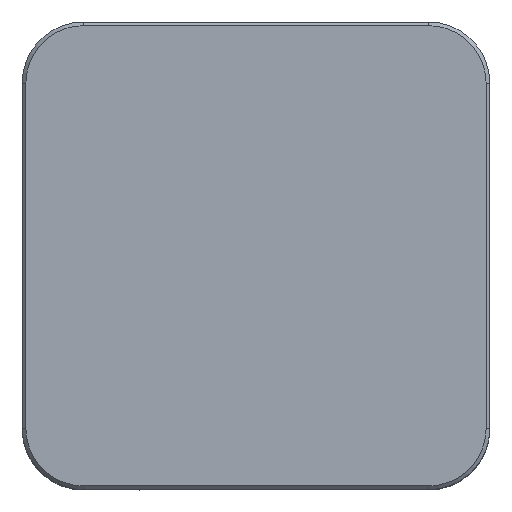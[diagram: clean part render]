
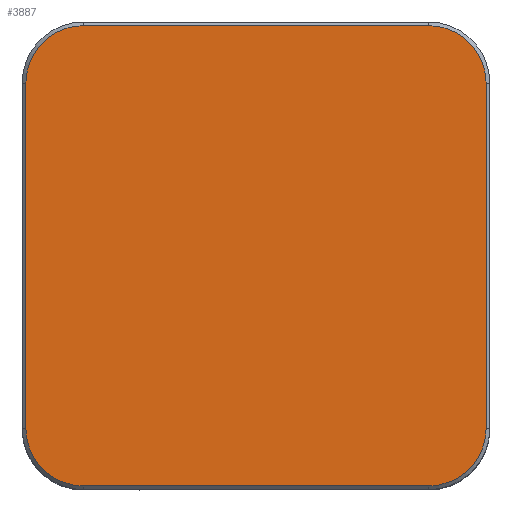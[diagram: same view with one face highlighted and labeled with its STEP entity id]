
A CAD part, top view. The second image highlights one B-rep face of the part: STEP entity #3887.
In plain terms, the highlighted planar face has unit normal (0, 0, 1) as drawn and (0, 1, 0) by its records, which use the part's own axes.
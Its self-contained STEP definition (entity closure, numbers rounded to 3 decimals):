
#28 = VERTEX_POINT ( 'NONE', #13132 ) ;
#426 = CARTESIAN_POINT ( 'NONE',  ( -33.2, 11.8, 5. ) ) ;
#432 = CIRCLE ( 'NONE', #9113, 4.7 ) ;
#637 = CARTESIAN_POINT ( 'NONE',  ( -33.2, 11.8, 33.2 ) ) ;
#1068 = VECTOR ( 'NONE', #6383, 1000. ) ;
#1191 = CARTESIAN_POINT ( 'NONE',  ( -0.3, 11.8, 33.2 ) ) ;
#1247 = ORIENTED_EDGE ( 'NONE', *, *, #3437, .T. ) ;
#1330 = CARTESIAN_POINT ( 'NONE',  ( -33.2, 11.8, 37.9 ) ) ;
#1341 = EDGE_CURVE ( 'NONE', #10643, #1408, #15389, .T. ) ;
#1408 = VERTEX_POINT ( 'NONE', #13802 ) ;
#1600 = CARTESIAN_POINT ( 'NONE',  ( -5., 11.8, 33.2 ) ) ;
#1985 = DIRECTION ( 'NONE',  ( 1., 0., 0. ) ) ;
#2453 = DIRECTION ( 'NONE',  ( 0., 1., 0. ) ) ;
#2904 = CARTESIAN_POINT ( 'NONE',  ( -5., 11.8, 37.9 ) ) ;
#3333 = CIRCLE ( 'NONE', #8011, 4.7 ) ;
#3437 = EDGE_CURVE ( 'NONE', #6934, #8781, #432, .T. ) ;
#3855 = LINE ( 'NONE', #1330, #1068 ) ;
#3887 = ADVANCED_FACE ( 'NONE', ( #5168 ), #12630, .T. ) ;
#3985 = DIRECTION ( 'NONE',  ( 0., 0., 1. ) ) ;
#4085 = DIRECTION ( 'NONE',  ( 0., 0., -1. ) ) ;
#4255 = EDGE_CURVE ( 'NONE', #8781, #11705, #13461, .T. ) ;
#4299 = DIRECTION ( 'NONE',  ( 0., 1., 0. ) ) ;
#4515 = EDGE_CURVE ( 'NONE', #1408, #6350, #12273, .T. ) ;
#5168 = FACE_OUTER_BOUND ( 'NONE', #9857, .T. ) ;
#5200 = EDGE_CURVE ( 'NONE', #11705, #10643, #15435, .T. ) ;
#5378 = ORIENTED_EDGE ( 'NONE', *, *, #4255, .T. ) ;
#5844 = DIRECTION ( 'NONE',  ( 0., 1., 0. ) ) ;
#5846 = ORIENTED_EDGE ( 'NONE', *, *, #16192, .T. ) ;
#6350 = VERTEX_POINT ( 'NONE', #12831 ) ;
#6383 = DIRECTION ( 'NONE',  ( 1., 0., 0. ) ) ;
#6745 = ORIENTED_EDGE ( 'NONE', *, *, #5200, .T. ) ;
#6934 = VERTEX_POINT ( 'NONE', #2904 ) ;
#7261 = AXIS2_PLACEMENT_3D ( 'NONE', #8384, #5844, #1985 ) ;
#7286 = DIRECTION ( 'NONE',  ( 0., 0., -1. ) ) ;
#7961 = DIRECTION ( 'NONE',  ( 0., 0., 1. ) ) ;
#8011 = AXIS2_PLACEMENT_3D ( 'NONE', #637, #4299, #12033 ) ;
#8384 = CARTESIAN_POINT ( 'NONE',  ( -5., 11.8, 5. ) ) ;
#8730 = CARTESIAN_POINT ( 'NONE',  ( -0.3, 11.8, 33.2 ) ) ;
#8781 = VERTEX_POINT ( 'NONE', #1191 ) ;
#8852 = VERTEX_POINT ( 'NONE', #9095 ) ;
#9095 = CARTESIAN_POINT ( 'NONE',  ( -33.2, 11.8, 37.9 ) ) ;
#9113 = AXIS2_PLACEMENT_3D ( 'NONE', #1600, #9234, #7961 ) ;
#9234 = DIRECTION ( 'NONE',  ( 0., 1., 0. ) ) ;
#9268 = DIRECTION ( 'NONE',  ( 0., 1., 0. ) ) ;
#9325 = EDGE_CURVE ( 'NONE', #6350, #28, #15297, .T. ) ;
#9857 = EDGE_LOOP ( 'NONE', ( #5846, #1247, #5378, #6745, #9875, #14573, #10976, #15585 ) ) ;
#9875 = ORIENTED_EDGE ( 'NONE', *, *, #1341, .T. ) ;
#10643 = VERTEX_POINT ( 'NONE', #14379 ) ;
#10976 = ORIENTED_EDGE ( 'NONE', *, *, #9325, .T. ) ;
#11140 = EDGE_CURVE ( 'NONE', #28, #8852, #3333, .T. ) ;
#11288 = VECTOR ( 'NONE', #7286, 1000. ) ;
#11297 = DIRECTION ( 'NONE',  ( 1., 0., 0. ) ) ;
#11389 = VECTOR ( 'NONE', #15980, 1000. ) ;
#11705 = VERTEX_POINT ( 'NONE', #12550 ) ;
#11904 = VECTOR ( 'NONE', #3985, 1000. ) ;
#12033 = DIRECTION ( 'NONE',  ( -1., 0., 0. ) ) ;
#12273 = CIRCLE ( 'NONE', #14535, 4.7 ) ;
#12523 = AXIS2_PLACEMENT_3D ( 'NONE', #16356, #2453, #11297 ) ;
#12550 = CARTESIAN_POINT ( 'NONE',  ( -0.3, 11.8, 5. ) ) ;
#12630 = PLANE ( 'NONE',  #12523 ) ;
#12831 = CARTESIAN_POINT ( 'NONE',  ( -37.9, 11.8, 5. ) ) ;
#13132 = CARTESIAN_POINT ( 'NONE',  ( -37.9, 11.8, 33.2 ) ) ;
#13421 = CARTESIAN_POINT ( 'NONE',  ( -5., 11.8, 0.3 ) ) ;
#13461 = LINE ( 'NONE', #8730, #11288 ) ;
#13802 = CARTESIAN_POINT ( 'NONE',  ( -33.2, 11.8, 0.3 ) ) ;
#14041 = CARTESIAN_POINT ( 'NONE',  ( -37.9, 11.8, 5. ) ) ;
#14379 = CARTESIAN_POINT ( 'NONE',  ( -5., 11.8, 0.3 ) ) ;
#14535 = AXIS2_PLACEMENT_3D ( 'NONE', #426, #9268, #4085 ) ;
#14573 = ORIENTED_EDGE ( 'NONE', *, *, #4515, .T. ) ;
#15297 = LINE ( 'NONE', #14041, #11904 ) ;
#15389 = LINE ( 'NONE', #13421, #11389 ) ;
#15435 = CIRCLE ( 'NONE', #7261, 4.7 ) ;
#15585 = ORIENTED_EDGE ( 'NONE', *, *, #11140, .T. ) ;
#15980 = DIRECTION ( 'NONE',  ( -1., 0., 0. ) ) ;
#16192 = EDGE_CURVE ( 'NONE', #8852, #6934, #3855, .T. ) ;
#16356 = CARTESIAN_POINT ( 'NONE',  ( 0., 11.8, 0. ) ) ;
